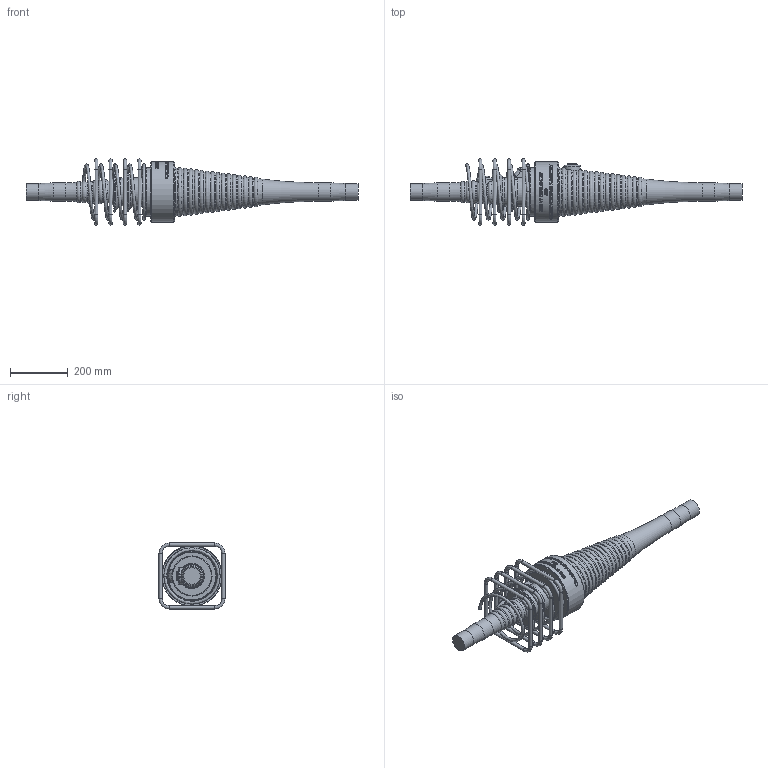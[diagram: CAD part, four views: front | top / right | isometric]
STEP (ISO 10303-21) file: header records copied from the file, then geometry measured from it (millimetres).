
FILE_DESCRIPTION(/* description */ (''),/* implementation_level */ '2;1');
FILE_NAME(/* name */ 'BBR VT CONA CMI BT 506_Coupler K Assembly_CS-34,28.stp',/* time_stamp */ '2025-04-30T09:15:10+02:00',/* author */ ('tk'),/* organization */ (''),/* preprocessor_version */ 'ST-DEVELOPER v20',/* originating_system */ 'Autodesk Inventor 2024',/* authorisation */ '');
FILE_SCHEMA (('AUTOMOTIVE_DESIGN { 1 0 10303 214 3 1 1 }'));
Products named in the file (1): BBR VT CONA CMI BT 506_Coupler K Assembly_CS-34,28
Bounding box: 1153 x 230 x 230 mm (x, y, z)
Volume: 11798841.5 mm3; surface area: 868499.6 mm2
Topology: 10 solids, 10 shells, 953 faces, 2491 edges, 1612 vertices
Faces by surface type: bspline 383, plane 306, cylinder 107, torus 107, cone 26, sphere 24
Full cylindrical faces by diameter (mm): 12 x16, 34 x2, 57 x2, 59 x2, 64 x2, 79.5 x2, 88 x1, 133.801 x1, 139.387 x1, 170 x1, 203 x1, 207 x1, 210 x1
Entity records: 42253 total; most frequent: CARTESIAN_POINT 20397, ORIENTED_EDGE 4970, DIRECTION 3642, EDGE_CURVE 2485, VERTEX_POINT 1612, AXIS2_PLACEMENT_3D 1361, EDGE_LOOP 1021, FACE_OUTER_BOUND 953
